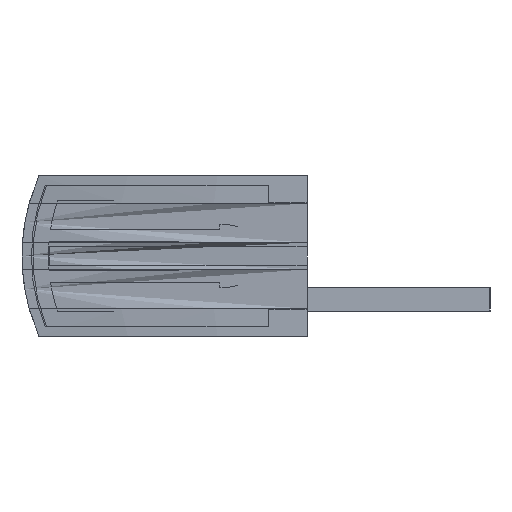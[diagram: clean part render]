
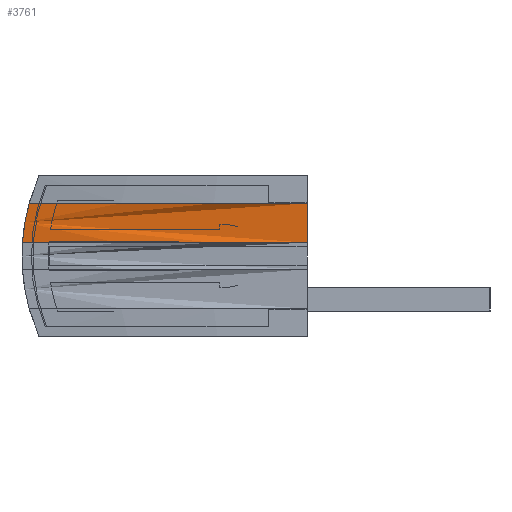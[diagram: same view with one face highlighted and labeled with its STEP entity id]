
A CAD part, left-side view. The second image highlights one B-rep face of the part: STEP entity #3761.
In plain terms, the highlighted cylindrical face has radius 138.287 mm (diameter 276.575 mm), a partial arc.
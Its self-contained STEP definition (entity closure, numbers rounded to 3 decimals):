
#1247=CARTESIAN_POINT('',(138.787,11.578,8.45));
#1248=DIRECTION('',(0.,0.,-1.));
#1249=DIRECTION('',(-1.,0.,0.));
#1250=AXIS2_PLACEMENT_3D('',#1247,#1248,#1249);
#1263=DIRECTION('',(0.,0.,1.));
#1264=VECTOR('',#1263,2.5);
#1265=CARTESIAN_POINT('',(0.5,11.628,5.95));
#1266=LINE('',#1265,#1264);
#1285=CARTESIAN_POINT('',(138.787,11.578,5.95));
#1286=DIRECTION('',(0.,0.,1.));
#1287=DIRECTION('',(-0.991,0.131,0.));
#1288=AXIS2_PLACEMENT_3D('',#1285,#1286,#1287);
#1429=CARTESIAN_POINT('',(1.628,29.303,8.45));
#1434=CARTESIAN_POINT('',(1.628,29.303,8.45));
#1435=CARTESIAN_POINT('',(1.638,29.378,8.178));
#1436=CARTESIAN_POINT('',(1.674,29.51,7.629));
#1437=CARTESIAN_POINT('',(1.684,29.652,6.793));
#1438=CARTESIAN_POINT('',(1.693,29.709,6.232));
#1439=CARTESIAN_POINT('',(1.695,29.728,5.95));
#2519=VERTEX_POINT('',#1429);
#2520=VERTEX_POINT('',#1439);
#2676=CARTESIAN_POINT('',(0.5,11.628,8.45));
#2677=VERTEX_POINT('',#2676);
#2678=CARTESIAN_POINT('',(0.5,11.628,5.95));
#2679=VERTEX_POINT('',#2678);
#3748=CARTESIAN_POINT('',(138.787,11.578,5.95));
#3749=DIRECTION('',(0.,0.,1.));
#3750=DIRECTION('',(0.,-1.,0.));
#3751=AXIS2_PLACEMENT_3D('',#3748,#3749,#3750);
#3752=CYLINDRICAL_SURFACE('',#3751,138.287);
#3753=ORIENTED_EDGE('',*,*,#3579,.F.);
#3755=ORIENTED_EDGE('',*,*,#3754,.F.);
#3757=ORIENTED_EDGE('',*,*,#3756,.F.);
#3758=ORIENTED_EDGE('',*,*,#3742,.F.);
#3759=EDGE_LOOP('',(#3753,#3755,#3757,#3758));
#3760=FACE_OUTER_BOUND('',#3759,.F.);
#1251=CIRCLE('',#1250,138.287);
#1289=CIRCLE('',#1288,138.287);
#1440=B_SPLINE_CURVE_WITH_KNOTS('',3,(#1434,#1435,#1436,#1437,#1438,#1439),
.UNSPECIFIED.,.F.,.F.,(4,1,1,4),(0.,0.333,0.667,1.),
.UNSPECIFIED.);
#3579=EDGE_CURVE('',#2679,#2677,#1266,.T.);
#3742=EDGE_CURVE('',#2677,#2519,#1251,.T.);
#3754=EDGE_CURVE('',#2520,#2679,#1289,.T.);
#3756=EDGE_CURVE('',#2519,#2520,#1440,.T.);
#3761=ADVANCED_FACE('',(#3760),#3752,.T.);
